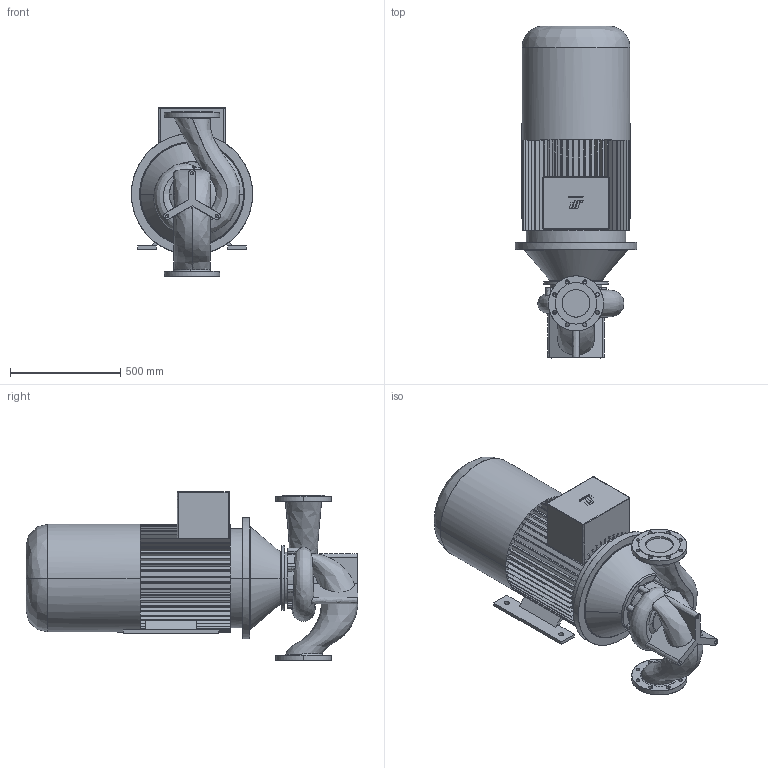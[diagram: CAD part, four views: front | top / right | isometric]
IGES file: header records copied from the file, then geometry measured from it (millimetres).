
Start section: CombiLine
Global section: file name: CLB_125-200_IEC250M_ND10.igs; native system:  By UGS Corp.; preprocessor: XPlus GENERIC/IGES 3.0; author: Stageplaats; organization: Johnson Pump Water B.V.; date: 20070717.134150; units: millimetre
Bounding box: 550 x 1505 x 769 mm (x, y, z)
Surface area: 4369893.5 mm2 (no closed solid volume)
Topology: 0 solids, 0 shells, 723 faces, 4161 edges, 4155 vertices
Faces by surface type: bspline 723
